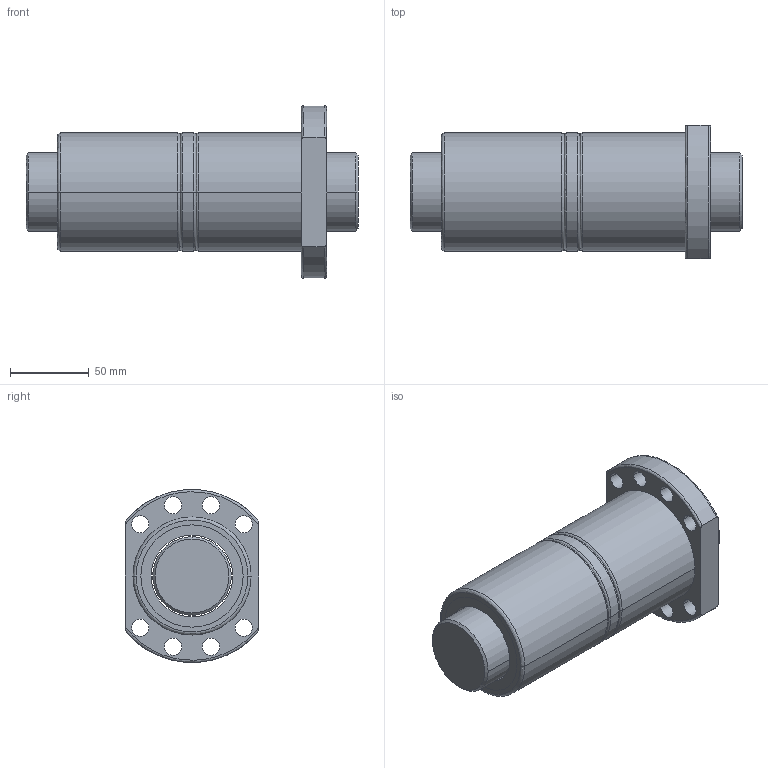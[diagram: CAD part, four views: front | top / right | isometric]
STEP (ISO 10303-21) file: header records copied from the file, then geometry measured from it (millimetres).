
FILE_DESCRIPTION (( 'STEP AP203' ), '1' );
FILE_NAME ('DFU05010.STEP', '2013-01-21T15:29:07', ( 'Halezer' ), ( '' ), 'SwSTEP 2.0', 'SolidWorks 2010', '' );
FILE_SCHEMA (( 'CONFIG_CONTROL_DESIGN' ));
Length unit declared in the file: millimetre
Products named in the file (1): DFU05010
Bounding box: 211 x 85 x 109.65 mm (x, y, z)
Volume: 855556.2 mm3; surface area: 141283.8 mm2
Topology: 6 solids, 6 shells, 79 faces, 180 edges, 116 vertices
Faces by surface type: cylinder 44, plane 17, bspline 14, cone 4
Entity records: 2953 total; most frequent: CARTESIAN_POINT 1058, DIRECTION 394, ORIENTED_EDGE 360, EDGE_CURVE 180, AXIS2_PLACEMENT_3D 170, VERTEX_POINT 116, EDGE_LOOP 108, CIRCLE 104
